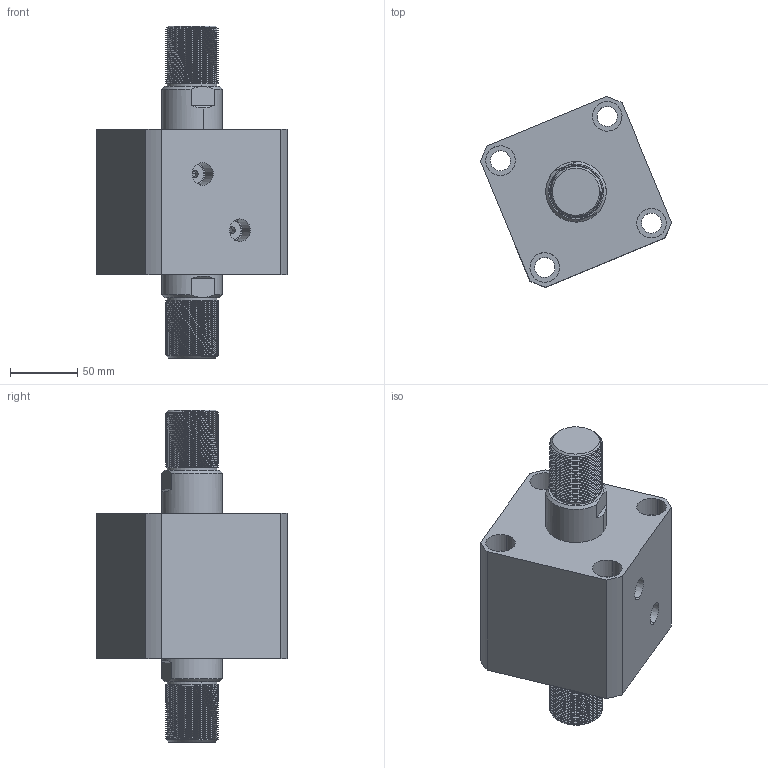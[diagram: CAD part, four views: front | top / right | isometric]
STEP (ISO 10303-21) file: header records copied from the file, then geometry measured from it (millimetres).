
FILE_DESCRIPTION (( 'STEP AP214' ), '1' );
FILE_NAME ('chtb-sw80x15w_asm.STEP', '2018-05-28T01:36:08', ( 'Windows' ), ( 'Microsoft' ), 'SwSTEP 2.0', 'SolidWorks 2015', '' );
FILE_SCHEMA (( 'AUTOMOTIVE_DESIGN' ));
Length unit declared in the file: millimetre
Products named in the file (4): CHTB-SW80X15WHSG; CHTB-SW80X15NBT; CHTB-SD80QG; chtb-sw80x15w_asm
Assembly tree (3 placements, depth 2):
  chtb-sw80x15w_asm
    CHTB-SD80QG
    CHTB-SW80X15NBT
    CHTB-SW80X15WHSG
Bounding box: 142.06 x 142.06 x 247 mm (x, y, z)
Volume: 1391497.2 mm3; surface area: 199391.5 mm2
Topology: 3 solids, 3 shells, 330 faces, 908 edges, 607 vertices
Faces by surface type: cylinder 221, plane 48, cone 25, bspline 18, torus 18
Entity records: 25864 total; most frequent: CARTESIAN_POINT 18238, ORIENTED_EDGE 1808, DIRECTION 1338, EDGE_CURVE 904, VERTEX_POINT 607, AXIS2_PLACEMENT_3D 532, EDGE_LOOP 373, ADVANCED_FACE 330
